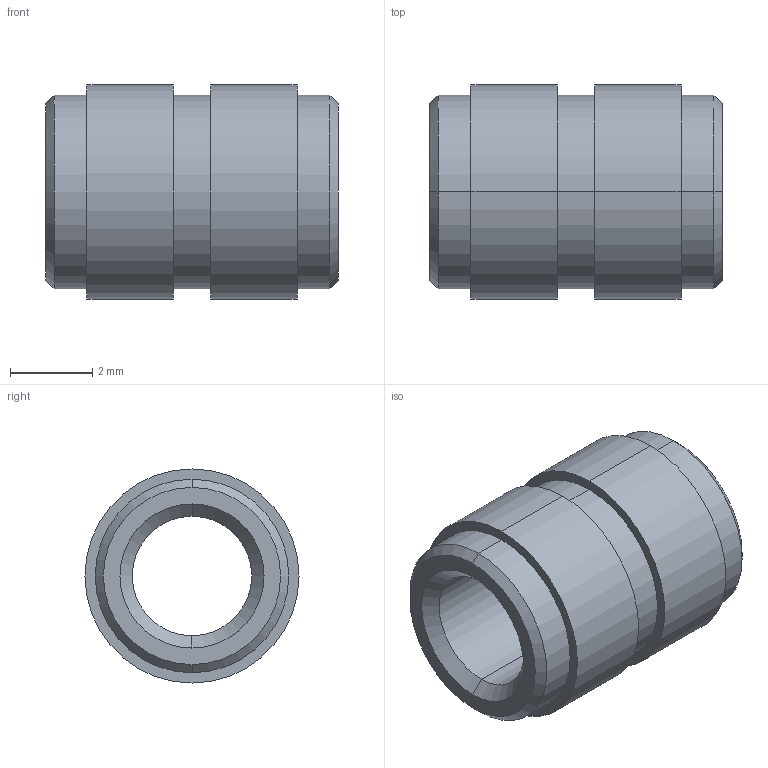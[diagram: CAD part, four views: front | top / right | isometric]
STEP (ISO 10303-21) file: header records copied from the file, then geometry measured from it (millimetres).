
FILE_DESCRIPTION (( 'STEP AP203' ), '1' );
FILE_NAME ('FSUK-HIHL-M03.5-S.STEP', '2021-04-15T12:47:24', ( '' ), ( '' ), 'SwSTEP 2.0', 'SolidWorks 2021', '' );
FILE_SCHEMA (( 'CONFIG_CONTROL_DESIGN' ));
Length unit declared in the file: millimetre
Products named in the file (1): FSUK-HIHL-M03.5-S
Bounding box: 7.1 x 5.2 x 5.2 mm (x, y, z)
Volume: 91.2 mm3; surface area: 206.6 mm2
Topology: 1 solids, 1 shells, 26 faces, 52 edges, 32 vertices
Faces by surface type: cylinder 12, cone 8, plane 6
Entity records: 765 total; most frequent: DIRECTION 138, CARTESIAN_POINT 111, ORIENTED_EDGE 104, AXIS2_PLACEMENT_3D 59, EDGE_CURVE 52, CIRCLE 32, VERTEX_POINT 32, EDGE_LOOP 32
